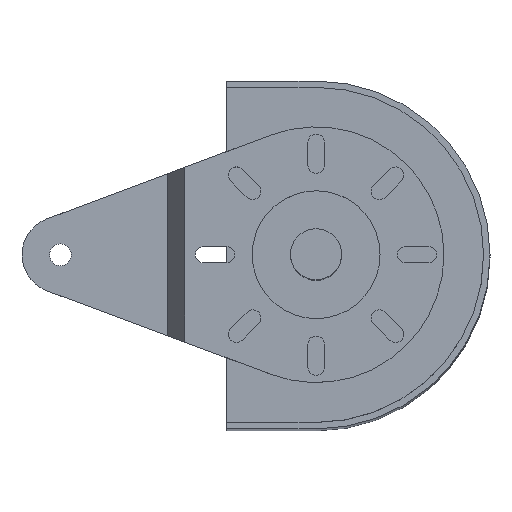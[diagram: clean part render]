
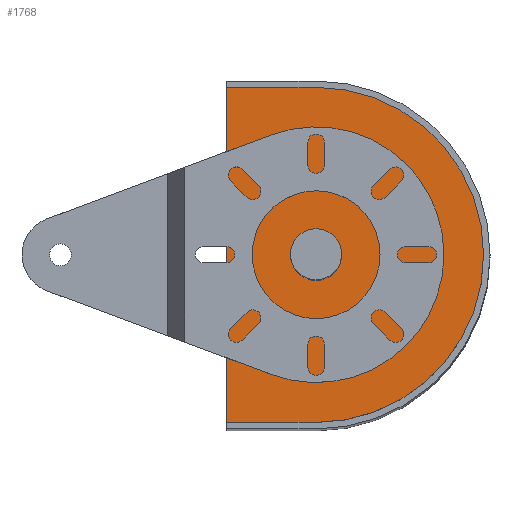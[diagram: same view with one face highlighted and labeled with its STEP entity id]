
A CAD part, top view. The second image highlights one B-rep face of the part: STEP entity #1768.
In plain terms, the highlighted planar face has unit normal (0, 0, 1).
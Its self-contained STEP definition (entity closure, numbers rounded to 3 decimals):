
#7 = CARTESIAN_POINT ( 'NONE',  ( -68., 0., 249.5 ) ) ;
#11 = DIRECTION ( 'NONE',  ( 0., -1., 0. ) ) ;
#57 = EDGE_CURVE ( 'NONE', #2071, #1561, #1390, .T. ) ;
#84 = ORIENTED_EDGE ( 'NONE', *, *, #1887, .T. ) ;
#93 = DIRECTION ( 'NONE',  ( 1., 0., 0. ) ) ;
#116 = CARTESIAN_POINT ( 'NONE',  ( -78., 0., 249.5 ) ) ;
#279 = DIRECTION ( 'NONE',  ( 1., 0., 0. ) ) ;
#409 = ORIENTED_EDGE ( 'NONE', *, *, #2320, .T. ) ;
#464 = CARTESIAN_POINT ( 'NONE',  ( -58., 0., 249.5 ) ) ;
#475 = DIRECTION ( 'NONE',  ( 0., 0., 1. ) ) ;
#617 = CARTESIAN_POINT ( 'NONE',  ( -68., 0., 249.5 ) ) ;
#623 = ORIENTED_EDGE ( 'NONE', *, *, #793, .T. ) ;
#671 = EDGE_LOOP ( 'NONE', ( #1634, #1090 ) ) ;
#780 = DIRECTION ( 'NONE',  ( 0., 0., 1. ) ) ;
#793 = EDGE_CURVE ( 'NONE', #1788, #2071, #946, .T. ) ;
#814 = FACE_OUTER_BOUND ( 'NONE', #2169, .T. ) ;
#869 = VECTOR ( 'NONE', #966, 1000. ) ;
#940 = DIRECTION ( 'NONE',  ( 1., 0., 0. ) ) ;
#946 = CIRCLE ( 'NONE', #2144, 65.5 ) ;
#966 = DIRECTION ( 'NONE',  ( -1., 0., 0. ) ) ;
#973 = CARTESIAN_POINT ( 'NONE',  ( -68., 65.5, 249.5 ) ) ;
#1045 = EDGE_CURVE ( 'NONE', #1262, #2023, #1663, .T. ) ;
#1054 = EDGE_CURVE ( 'NONE', #2023, #1262, #2134, .T. ) ;
#1090 = ORIENTED_EDGE ( 'NONE', *, *, #1054, .F. ) ;
#1102 = LINE ( 'NONE', #2034, #1752 ) ;
#1119 = AXIS2_PLACEMENT_3D ( 'NONE', #1689, #780, #2254 ) ;
#1148 = VERTEX_POINT ( 'NONE', #2292 ) ;
#1262 = VERTEX_POINT ( 'NONE', #116 ) ;
#1279 = DIRECTION ( 'NONE',  ( 0., 0., 1. ) ) ;
#1390 = LINE ( 'NONE', #973, #869 ) ;
#1413 = CARTESIAN_POINT ( 'NONE',  ( -68., 65.5, 249.5 ) ) ;
#1506 = PLANE ( 'NONE',  #2058 ) ;
#1512 = DIRECTION ( 'NONE',  ( 0., 0., 1. ) ) ;
#1522 = DIRECTION ( 'NONE',  ( 1., 0., 0. ) ) ;
#1561 = VERTEX_POINT ( 'NONE', #1827 ) ;
#1613 = AXIS2_PLACEMENT_3D ( 'NONE', #617, #475, #93 ) ;
#1634 = ORIENTED_EDGE ( 'NONE', *, *, #1045, .F. ) ;
#1663 = CIRCLE ( 'NONE', #1119, 10. ) ;
#1689 = CARTESIAN_POINT ( 'NONE',  ( -68., 0., 249.5 ) ) ;
#1734 = CARTESIAN_POINT ( 'NONE',  ( -103., -65.5, 249.5 ) ) ;
#1752 = VECTOR ( 'NONE', #11, 1000. ) ;
#1768 = ADVANCED_FACE ( 'NONE', ( #814, #1995 ), #1506, .T. ) ;
#1788 = VERTEX_POINT ( 'NONE', #2064 ) ;
#1827 = CARTESIAN_POINT ( 'NONE',  ( -103., 65.5, 249.5 ) ) ;
#1853 = VECTOR ( 'NONE', #279, 1000. ) ;
#1887 = EDGE_CURVE ( 'NONE', #1148, #1788, #1943, .T. ) ;
#1943 = LINE ( 'NONE', #1734, #1853 ) ;
#1995 = FACE_BOUND ( 'NONE', #671, .T. ) ;
#2023 = VERTEX_POINT ( 'NONE', #464 ) ;
#2034 = CARTESIAN_POINT ( 'NONE',  ( -103., 65.5, 249.5 ) ) ;
#2058 = AXIS2_PLACEMENT_3D ( 'NONE', #2059, #1512, #1522 ) ;
#2059 = CARTESIAN_POINT ( 'NONE',  ( -68., 0., 249.5 ) ) ;
#2064 = CARTESIAN_POINT ( 'NONE',  ( -68., -65.5, 249.5 ) ) ;
#2071 = VERTEX_POINT ( 'NONE', #1413 ) ;
#2100 = ORIENTED_EDGE ( 'NONE', *, *, #57, .T. ) ;
#2134 = CIRCLE ( 'NONE', #1613, 10. ) ;
#2144 = AXIS2_PLACEMENT_3D ( 'NONE', #7, #1279, #940 ) ;
#2169 = EDGE_LOOP ( 'NONE', ( #2100, #409, #84, #623 ) ) ;
#2254 = DIRECTION ( 'NONE',  ( 1., 0., 0. ) ) ;
#2292 = CARTESIAN_POINT ( 'NONE',  ( -103., -65.5, 249.5 ) ) ;
#2320 = EDGE_CURVE ( 'NONE', #1561, #1148, #1102, .T. ) ;
